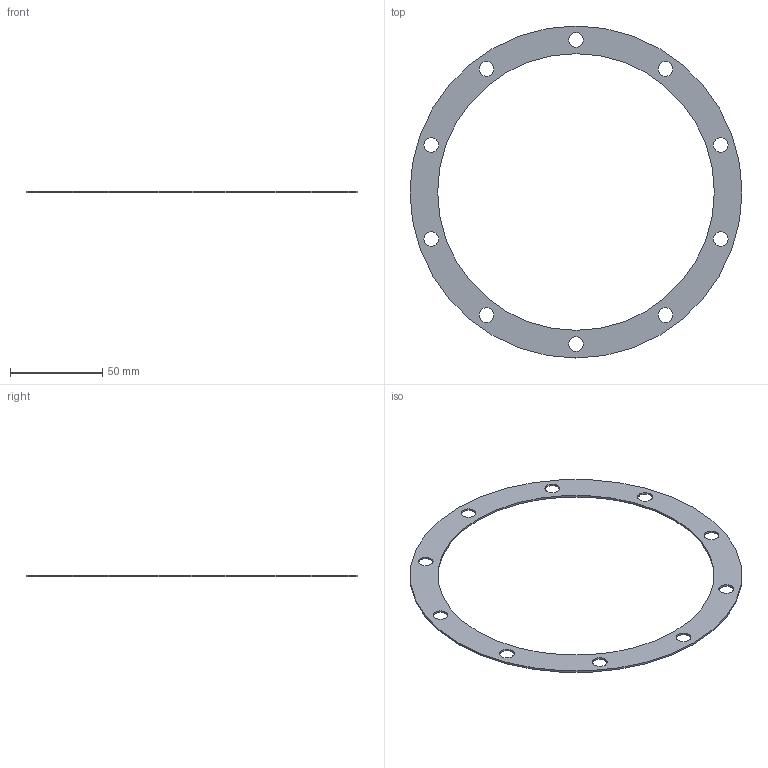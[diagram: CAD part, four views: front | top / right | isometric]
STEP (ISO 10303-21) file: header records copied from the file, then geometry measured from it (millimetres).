
FILE_DESCRIPTION(/* description */ (''),/* implementation_level */ '2;1');
FILE_NAME(/* name */ 'G:\YandexDisk\Работа\Inventor\Универ\ОАП\Лабораторные работы\ЛР6 Создание сборок\Редуктор\stp\Прокладка 2.stp',/* time_stamp */ '2023-11-17T06:30:27+03:00',/* author */ ('34740'),/* organization */ (''),/* preprocessor_version */ 'ST-DEVELOPER v18.1',/* originating_system */ 'Autodesk Inventor 2022',/* authorisation */ '');
FILE_SCHEMA (('AUTOMOTIVE_DESIGN { 1 0 10303 214 3 1 1 }'));
Length unit declared in the file: millimetre
Products named in the file (1): Прокладка 2
Bounding box: 180 x 180 x 1 mm (x, y, z)
Volume: 7272.8 mm3; surface area: 15833.6 mm2
Topology: 1 solids, 1 shells, 14 faces, 36 edges, 24 vertices
Faces by surface type: cylinder 12, plane 2
Full cylindrical faces by diameter (mm): 8 x10, 150 x1, 180 x1
Entity records: 529 total; most frequent: DIRECTION 90, CARTESIAN_POINT 75, ORIENTED_EDGE 72, AXIS2_PLACEMENT_3D 39, EDGE_LOOP 36, EDGE_CURVE 36, CIRCLE 24, VERTEX_POINT 24
